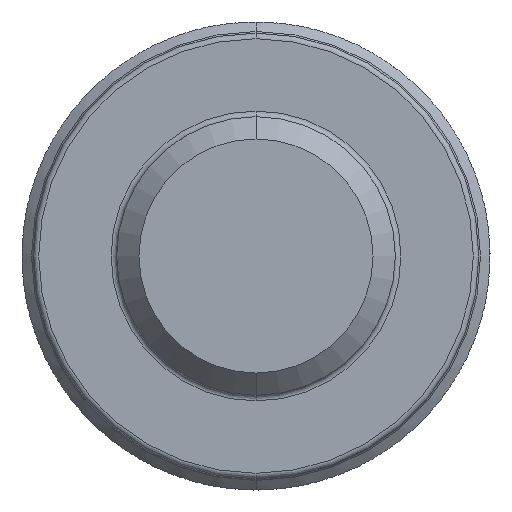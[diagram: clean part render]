
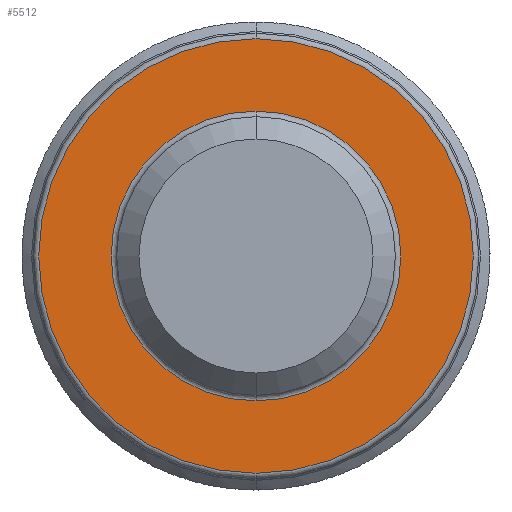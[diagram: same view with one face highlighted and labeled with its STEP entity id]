
A CAD part, front view. The second image highlights one B-rep face of the part: STEP entity #5512.
In plain terms, the highlighted planar face has unit normal (0, -1, 0).
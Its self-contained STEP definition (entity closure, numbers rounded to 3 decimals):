
#136 = CARTESIAN_POINT ( 'NONE',  ( 0., -5., 0. ) ) ;
#280 = AXIS2_PLACEMENT_3D ( 'NONE', #2501, #666, #5038 ) ;
#506 = VERTEX_POINT ( 'NONE', #1887 ) ;
#554 = CARTESIAN_POINT ( 'NONE',  ( 2.5, -5., 0. ) ) ;
#580 = ORIENTED_EDGE ( 'NONE', *, *, #7855, .T. ) ;
#666 = DIRECTION ( 'NONE',  ( 0., -1., 0. ) ) ;
#853 = DIRECTION ( 'NONE',  ( 0., -1., 0. ) ) ;
#1176 = FACE_OUTER_BOUND ( 'NONE', #8242, .T. ) ;
#1347 = CARTESIAN_POINT ( 'NONE',  ( 0., -5., 0. ) ) ;
#1499 = AXIS2_PLACEMENT_3D ( 'NONE', #1347, #3937, #6531 ) ;
#1555 = VERTEX_POINT ( 'NONE', #2189 ) ;
#1746 = CARTESIAN_POINT ( 'NONE',  ( 0., -5., 3.9 ) ) ;
#1887 = CARTESIAN_POINT ( 'NONE',  ( 0., -5., 2.6 ) ) ;
#1895 = CIRCLE ( 'NONE', #8250, 3.9 ) ;
#2189 = CARTESIAN_POINT ( 'NONE',  ( 0., -5., -2.6 ) ) ;
#2207 = AXIS2_PLACEMENT_3D ( 'NONE', #554, #8369, #5751 ) ;
#2416 = FACE_BOUND ( 'NONE', #4362, .T. ) ;
#2444 = ORIENTED_EDGE ( 'NONE', *, *, #5757, .T. ) ;
#2457 = CIRCLE ( 'NONE', #7188, 2.6 ) ;
#2501 = CARTESIAN_POINT ( 'NONE',  ( 0., -5., 0. ) ) ;
#3685 = CARTESIAN_POINT ( 'NONE',  ( 0., -5., 0. ) ) ;
#3765 = DIRECTION ( 'NONE',  ( 0., 1., 0. ) ) ;
#3776 = PLANE ( 'NONE',  #2207 ) ;
#3937 = DIRECTION ( 'NONE',  ( 0., 1., 0. ) ) ;
#4362 = EDGE_LOOP ( 'NONE', ( #2444, #580 ) ) ;
#4895 = ORIENTED_EDGE ( 'NONE', *, *, #7473, .T. ) ;
#5038 = DIRECTION ( 'NONE',  ( 0., 0., -1. ) ) ;
#5488 = ORIENTED_EDGE ( 'NONE', *, *, #6814, .T. ) ;
#5512 = ADVANCED_FACE ( 'NONE', ( #2416, #1176 ), #3776, .T. ) ;
#5664 = DIRECTION ( 'NONE',  ( 0., 0., -1. ) ) ;
#5751 = DIRECTION ( 'NONE',  ( 0., 0., -1. ) ) ;
#5757 = EDGE_CURVE ( 'NONE', #1555, #506, #2457, .T. ) ;
#5887 = VERTEX_POINT ( 'NONE', #1746 ) ;
#5949 = CIRCLE ( 'NONE', #280, 3.9 ) ;
#6531 = DIRECTION ( 'NONE',  ( 0., 0., -1. ) ) ;
#6814 = EDGE_CURVE ( 'NONE', #5887, #8352, #5949, .T. ) ;
#7188 = AXIS2_PLACEMENT_3D ( 'NONE', #3685, #3765, #5664 ) ;
#7377 = DIRECTION ( 'NONE',  ( 0., 0., -1. ) ) ;
#7449 = CIRCLE ( 'NONE', #1499, 2.6 ) ;
#7473 = EDGE_CURVE ( 'NONE', #8352, #5887, #1895, .T. ) ;
#7557 = CARTESIAN_POINT ( 'NONE',  ( 0., -5., -3.9 ) ) ;
#7855 = EDGE_CURVE ( 'NONE', #506, #1555, #7449, .T. ) ;
#8242 = EDGE_LOOP ( 'NONE', ( #4895, #5488 ) ) ;
#8250 = AXIS2_PLACEMENT_3D ( 'NONE', #136, #853, #7377 ) ;
#8352 = VERTEX_POINT ( 'NONE', #7557 ) ;
#8369 = DIRECTION ( 'NONE',  ( 0., -1., 0. ) ) ;
